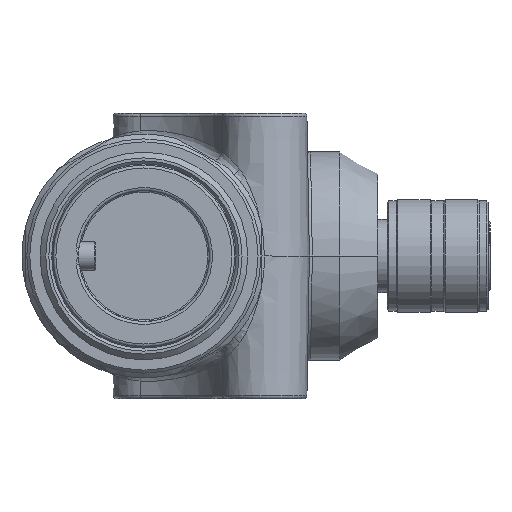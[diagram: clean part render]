
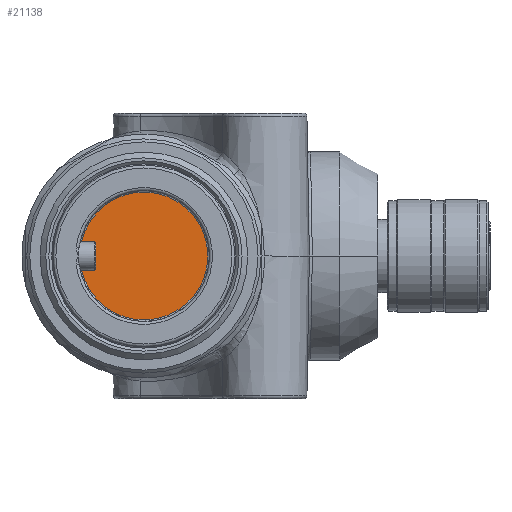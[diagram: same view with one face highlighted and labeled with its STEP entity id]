
A CAD part, left-side view. The second image highlights one B-rep face of the part: STEP entity #21138.
In plain terms, the highlighted planar face has unit normal (-1, 0, 0).
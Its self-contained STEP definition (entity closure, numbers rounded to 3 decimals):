
#1250=PLANE('',#22671);
#2195=FACE_OUTER_BOUND('',#3437,.T.);
#3437=EDGE_LOOP('',(#17300,#17301,#17302,#17303,#17304,#17305));
#3886=LINE('',#29007,#5677);
#5276=LINE('',#36478,#7067);
#5279=LINE('',#36564,#7070);
#5677=VECTOR('',#23542,10.);
#7067=VECTOR('',#27108,10.);
#7070=VECTOR('',#27149,10.);
#7457=CIRCLE('',#21565,0.25);
#7854=CIRCLE('',#22652,0.25);
#7863=CIRCLE('',#22670,10.75);
#8251=VERTEX_POINT('',#29005);
#8252=VERTEX_POINT('',#29006);
#8256=VERTEX_POINT('',#29016);
#9596=VERTEX_POINT('',#36475);
#9597=VERTEX_POINT('',#36480);
#9604=VERTEX_POINT('',#36562);
#10206=EDGE_CURVE('',#8251,#8252,#3886,.T.);
#10213=EDGE_CURVE('',#8251,#8256,#7457,.F.);
#12256=EDGE_CURVE('',#9596,#8256,#5276,.T.);
#12259=EDGE_CURVE('',#9596,#9597,#7854,.F.);
#12272=EDGE_CURVE('',#9604,#9597,#5279,.T.);
#12273=EDGE_CURVE('',#9604,#8252,#7863,.T.);
#17300=ORIENTED_EDGE('',*,*,#12273,.F.);
#17301=ORIENTED_EDGE('',*,*,#12272,.T.);
#17302=ORIENTED_EDGE('',*,*,#12259,.F.);
#17303=ORIENTED_EDGE('',*,*,#12256,.T.);
#17304=ORIENTED_EDGE('',*,*,#10213,.F.);
#17305=ORIENTED_EDGE('',*,*,#10206,.T.);
#21138=ADVANCED_FACE('',(#2195),#1250,.F.);
#21565=AXIS2_PLACEMENT_3D('',#29020,#23553,#23554);
#22652=AXIS2_PLACEMENT_3D('',#36483,#27114,#27115);
#22670=AXIS2_PLACEMENT_3D('',#36566,#27152,#27153);
#22671=AXIS2_PLACEMENT_3D('',#36567,#27154,#27155);
#23542=DIRECTION('',(0.,1.,0.));
#23553=DIRECTION('center_axis',(1.,0.,0.));
#23554=DIRECTION('ref_axis',(0.,-0.707,-0.707));
#27108=DIRECTION('',(0.,0.,-1.));
#27114=DIRECTION('center_axis',(1.,0.,0.));
#27115=DIRECTION('ref_axis',(0.,-0.707,0.707));
#27149=DIRECTION('',(0.,-1.,0.));
#27152=DIRECTION('center_axis',(1.,0.,0.));
#27153=DIRECTION('ref_axis',(0.,-1.,0.));
#27154=DIRECTION('center_axis',(1.,0.,0.));
#27155=DIRECTION('ref_axis',(0.,0.,-1.));
#29005=CARTESIAN_POINT('',(-48.254,39.35,-2.4));
#29006=CARTESIAN_POINT('',(-48.254,41.479,-2.4));
#29007=CARTESIAN_POINT('',(-48.254,37.8,-2.4));
#29016=CARTESIAN_POINT('',(-48.254,39.1,-2.15));
#29020=CARTESIAN_POINT('Origin',(-48.254,39.35,-2.15));
#36475=CARTESIAN_POINT('',(-48.254,39.1,2.15));
#36478=CARTESIAN_POINT('',(-48.254,39.1,0.));
#36480=CARTESIAN_POINT('',(-48.254,39.35,2.4));
#36483=CARTESIAN_POINT('Origin',(-48.254,39.35,2.15));
#36562=CARTESIAN_POINT('',(-48.254,41.479,2.4));
#36564=CARTESIAN_POINT('',(-48.254,37.8,2.4));
#36566=CARTESIAN_POINT('Origin',(-48.254,31.,0.));
#36567=CARTESIAN_POINT('Origin',(-48.254,36.5,0.));
